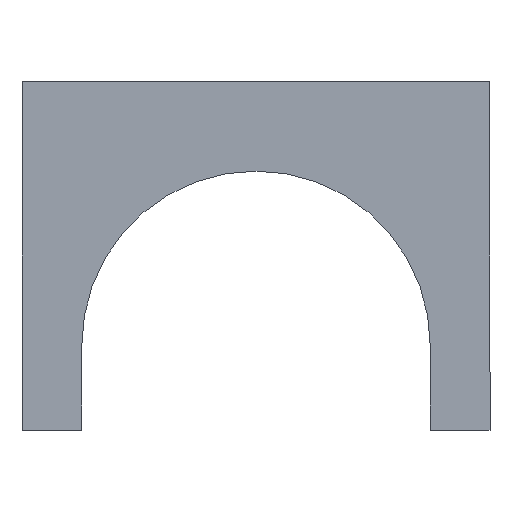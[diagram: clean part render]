
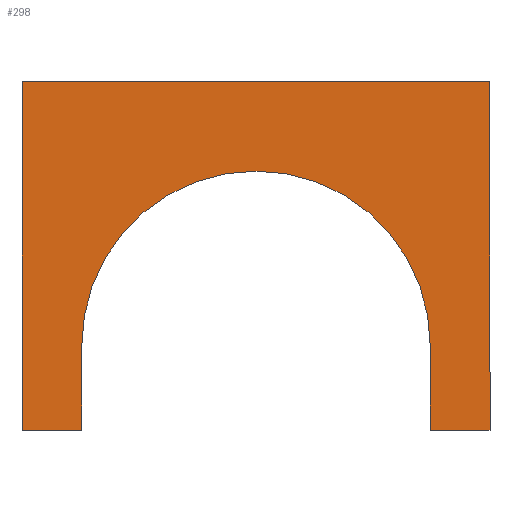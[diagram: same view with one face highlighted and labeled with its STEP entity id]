
A CAD part, front view. The second image highlights one B-rep face of the part: STEP entity #298.
In plain terms, the highlighted planar face has unit normal (0, -1, 0).
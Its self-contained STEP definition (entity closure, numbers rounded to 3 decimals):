
#2 = ORIENTED_EDGE ( 'NONE', *, *, #158, .F. ) ;
#8 = PLANE ( 'NONE',  #120 ) ;
#9 = DIRECTION ( 'NONE',  ( 0., -1., 0. ) ) ;
#15 = ORIENTED_EDGE ( 'NONE', *, *, #148, .F. ) ;
#31 = VECTOR ( 'NONE', #291, 1000. ) ;
#36 = ORIENTED_EDGE ( 'NONE', *, *, #173, .F. ) ;
#38 = DIRECTION ( 'NONE',  ( 0., 1., 0. ) ) ;
#44 = LINE ( 'NONE', #73, #53 ) ;
#53 = VECTOR ( 'NONE', #201, 1000. ) ;
#54 = CARTESIAN_POINT ( 'NONE',  ( -35., -5., 4.545 ) ) ;
#60 = EDGE_CURVE ( 'NONE', #232, #65, #305, .T. ) ;
#64 = CARTESIAN_POINT ( 'NONE',  ( 0., -5., 39.545 ) ) ;
#65 = VERTEX_POINT ( 'NONE', #81 ) ;
#68 = LINE ( 'NONE', #95, #347 ) ;
#69 = CARTESIAN_POINT ( 'NONE',  ( 35., -5., -12.5 ) ) ;
#73 = CARTESIAN_POINT ( 'NONE',  ( -47., -5., 57.5 ) ) ;
#81 = CARTESIAN_POINT ( 'NONE',  ( 47., -5., -12.5 ) ) ;
#95 = CARTESIAN_POINT ( 'NONE',  ( -47., -5., -12.5 ) ) ;
#98 = VERTEX_POINT ( 'NONE', #338 ) ;
#105 = DIRECTION ( 'NONE',  ( -1., 0., 0. ) ) ;
#110 = CIRCLE ( 'NONE', #343, 35. ) ;
#120 = AXIS2_PLACEMENT_3D ( 'NONE', #193, #38, #223 ) ;
#126 = VERTEX_POINT ( 'NONE', #54 ) ;
#129 = DIRECTION ( 'NONE',  ( 0., 0., 1. ) ) ;
#132 = CARTESIAN_POINT ( 'NONE',  ( 35., -5., 4.545 ) ) ;
#138 = EDGE_CURVE ( 'NONE', #65, #98, #388, .T. ) ;
#148 = EDGE_CURVE ( 'NONE', #359, #382, #234, .T. ) ;
#149 = CARTESIAN_POINT ( 'NONE',  ( 47., -5., -12.5 ) ) ;
#155 = CARTESIAN_POINT ( 'NONE',  ( 47., -5., 57.5 ) ) ;
#158 = EDGE_CURVE ( 'NONE', #126, #320, #356, .T. ) ;
#165 = ORIENTED_EDGE ( 'NONE', *, *, #314, .F. ) ;
#166 = DIRECTION ( 'NONE',  ( 0., 0., 1. ) ) ;
#169 = EDGE_CURVE ( 'NONE', #297, #232, #44, .T. ) ;
#170 = CARTESIAN_POINT ( 'NONE',  ( 0., -5., 4.545 ) ) ;
#173 = EDGE_CURVE ( 'NONE', #382, #126, #110, .T. ) ;
#191 = ORIENTED_EDGE ( 'NONE', *, *, #393, .F. ) ;
#193 = CARTESIAN_POINT ( 'NONE',  ( 0., -5., 4.545 ) ) ;
#200 = VECTOR ( 'NONE', #335, 1000. ) ;
#201 = DIRECTION ( 'NONE',  ( 1., 0., 0. ) ) ;
#203 = LINE ( 'NONE', #283, #31 ) ;
#216 = CARTESIAN_POINT ( 'NONE',  ( -47., -5., 57.5 ) ) ;
#223 = DIRECTION ( 'NONE',  ( 0., 0., 1. ) ) ;
#226 = VECTOR ( 'NONE', #255, 1000. ) ;
#232 = VERTEX_POINT ( 'NONE', #155 ) ;
#234 = CIRCLE ( 'NONE', #253, 35. ) ;
#235 = DIRECTION ( 'NONE',  ( 0., -1., 0. ) ) ;
#237 = VECTOR ( 'NONE', #325, 1000. ) ;
#253 = AXIS2_PLACEMENT_3D ( 'NONE', #264, #235, #129 ) ;
#255 = DIRECTION ( 'NONE',  ( 0., 0., 1. ) ) ;
#259 = ORIENTED_EDGE ( 'NONE', *, *, #138, .F. ) ;
#264 = CARTESIAN_POINT ( 'NONE',  ( 0., -5., 4.545 ) ) ;
#278 = VERTEX_POINT ( 'NONE', #307 ) ;
#283 = CARTESIAN_POINT ( 'NONE',  ( -47., -5., 57.5 ) ) ;
#287 = CARTESIAN_POINT ( 'NONE',  ( 35., -5., 4.545 ) ) ;
#291 = DIRECTION ( 'NONE',  ( 0., 0., 1. ) ) ;
#297 = VERTEX_POINT ( 'NONE', #216 ) ;
#298 = ADVANCED_FACE ( 'NONE', ( #341 ), #8, .F. ) ;
#305 = LINE ( 'NONE', #149, #200 ) ;
#307 = CARTESIAN_POINT ( 'NONE',  ( -47., -5., -12.5 ) ) ;
#314 = EDGE_CURVE ( 'NONE', #278, #297, #203, .T. ) ;
#320 = VERTEX_POINT ( 'NONE', #353 ) ;
#325 = DIRECTION ( 'NONE',  ( -1., 0., 0. ) ) ;
#327 = LINE ( 'NONE', #132, #226 ) ;
#335 = DIRECTION ( 'NONE',  ( 0., 0., -1. ) ) ;
#338 = CARTESIAN_POINT ( 'NONE',  ( 35., -5., -12.5 ) ) ;
#341 = FACE_OUTER_BOUND ( 'NONE', #345, .T. ) ;
#343 = AXIS2_PLACEMENT_3D ( 'NONE', #170, #9, #166 ) ;
#344 = ORIENTED_EDGE ( 'NONE', *, *, #60, .F. ) ;
#345 = EDGE_LOOP ( 'NONE', ( #344, #390, #165, #358, #2, #36, #15, #191, #259 ) ) ;
#347 = VECTOR ( 'NONE', #105, 1000. ) ;
#351 = CARTESIAN_POINT ( 'NONE',  ( -35., -5., -12.5 ) ) ;
#353 = CARTESIAN_POINT ( 'NONE',  ( -35., -5., -12.5 ) ) ;
#354 = VECTOR ( 'NONE', #385, 1000. ) ;
#356 = LINE ( 'NONE', #351, #354 ) ;
#357 = EDGE_CURVE ( 'NONE', #320, #278, #68, .T. ) ;
#358 = ORIENTED_EDGE ( 'NONE', *, *, #357, .F. ) ;
#359 = VERTEX_POINT ( 'NONE', #287 ) ;
#382 = VERTEX_POINT ( 'NONE', #64 ) ;
#385 = DIRECTION ( 'NONE',  ( 0., 0., -1. ) ) ;
#388 = LINE ( 'NONE', #69, #237 ) ;
#390 = ORIENTED_EDGE ( 'NONE', *, *, #169, .F. ) ;
#393 = EDGE_CURVE ( 'NONE', #98, #359, #327, .T. ) ;
